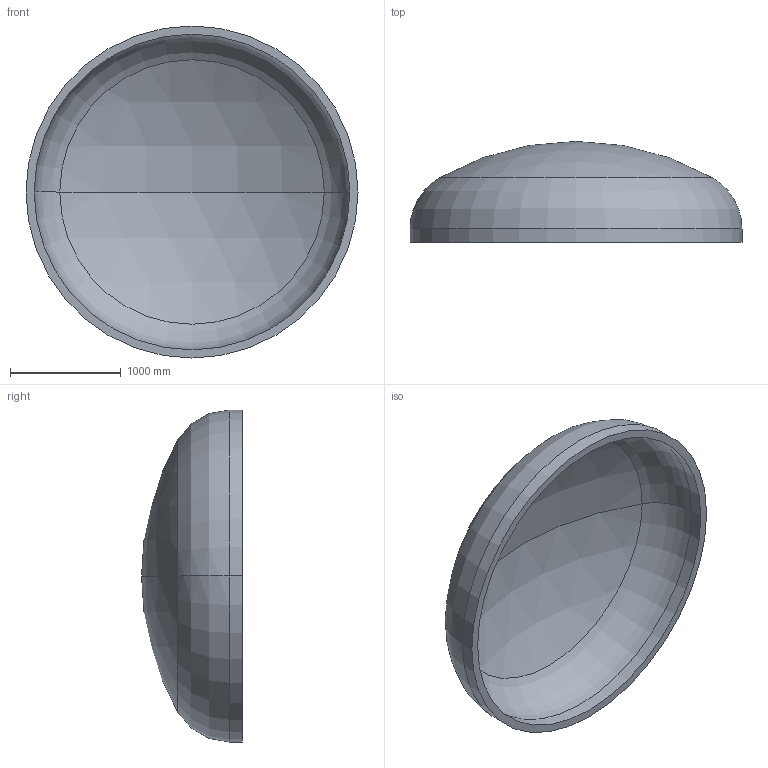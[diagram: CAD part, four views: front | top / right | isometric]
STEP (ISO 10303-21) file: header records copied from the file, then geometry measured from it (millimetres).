
FILE_DESCRIPTION (( 'STEP AP203' ), '1' );
FILE_NAME ('DIN 28013 Korbbogenform_-_Boden DIN 28013 - 3000 x 120 - I - s=74.step', '2016-07-01T17:59:07', ( '' ), ( '' ), 'SwSTEP 2.0', 'SolidWorks 2013', '' );
FILE_SCHEMA (( 'CONFIG_CONTROL_DESIGN' ));
Length unit declared in the file: millimetre
Products named in the file (1): DIN 28013 Korbbogenform_-_Boden DIN 28013 - 3000 x 120 - I - s=74
Bounding box: 3000 x 911.61 x 3000 mm (x, y, z)
Volume: 782403940.9 mm3; surface area: 21837744.6 mm2
Topology: 1 solids, 1 shells, 13 faces, 24 edges, 14 vertices
Faces by surface type: torus 4, cylinder 4, sphere 4, plane 1
Entity records: 407 total; most frequent: DIRECTION 72, CARTESIAN_POINT 52, ORIENTED_EDGE 48, AXIS2_PLACEMENT_3D 34, EDGE_CURVE 24, CIRCLE 20, VERTEX_POINT 14, EDGE_LOOP 14
